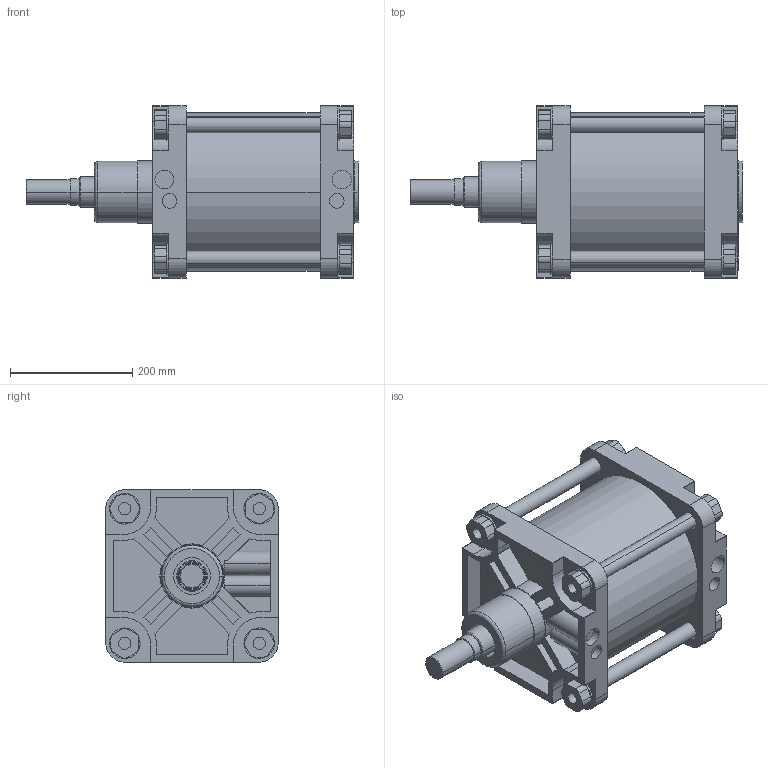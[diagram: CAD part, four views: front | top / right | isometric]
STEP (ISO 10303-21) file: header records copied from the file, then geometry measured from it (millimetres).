
FILE_DESCRIPTION(('CATIA V5 STEP Exchange'),'2;1');
FILE_NAME('D:\stp file for catalog\PNC\250\PNC 250-50-125.stp','2015-10-25T13:42:00+00:00',('none'),('none'),'Version 5-6 Release 2012','CATIA V5 STEP AP203','none');
FILE_SCHEMA(('CONFIG_CONTROL_DESIGN'));
Length unit declared in the file: millimetre
Products named in the file (1): PNC 250-50-125-00
Assembly tree (2 placements, depth 2):
  PNC 250-50-125-00
    #58
    #15305
Bounding box: 543 x 282 x 282 mm (x, y, z)
Volume: 10313367.4 mm3; surface area: 1265659.8 mm2
Topology: 2 solids, 2 shells, 556 faces, 1428 edges, 944 vertices
Faces by surface type: plane 316, cylinder 196, cone 42, torus 2
Entity records: 15751 total; most frequent: CARTESIAN_POINT 3340, ORIENTED_EDGE 2856, DIRECTION 1929, EDGE_CURVE 1428, VERTEX_POINT 944, VECTOR 904, LINE 904, AXIS2_PLACEMENT_3D 718
